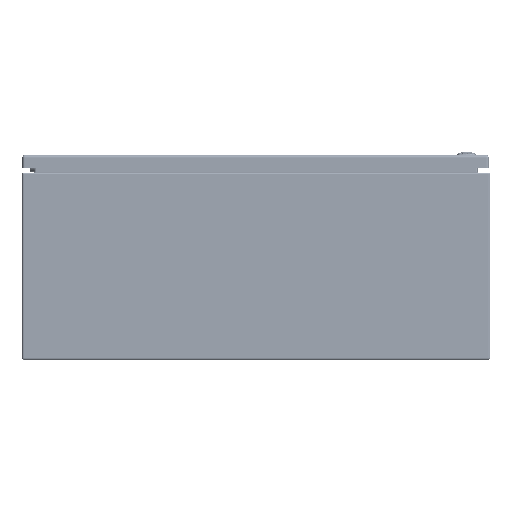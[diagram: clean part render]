
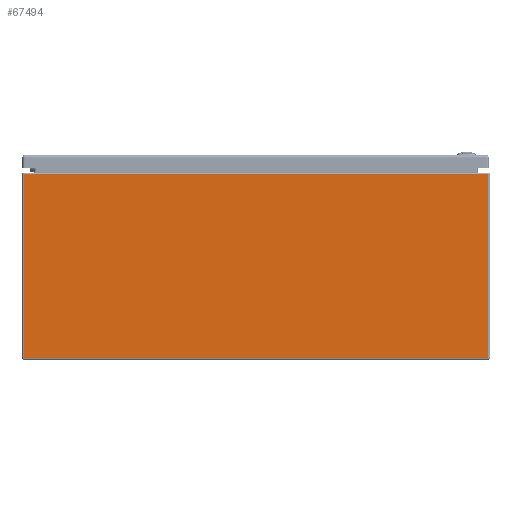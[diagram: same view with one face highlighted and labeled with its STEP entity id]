
A CAD part, front view. The second image highlights one B-rep face of the part: STEP entity #67494.
In plain terms, the highlighted planar face has unit normal (0, -1, 0).
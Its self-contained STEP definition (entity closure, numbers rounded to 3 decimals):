
#6828=LINE('',#94875,#10958);
#6831=LINE('',#94898,#10961);
#6848=LINE('',#94959,#10978);
#6857=LINE('',#94983,#10987);
#10958=VECTOR('',#78597,0.394);
#10961=VECTOR('',#78622,0.394);
#10978=VECTOR('',#78703,0.394);
#10987=VECTOR('',#78738,0.394);
#16201=FACE_OUTER_BOUND('',#20379,.T.);
#20379=EDGE_LOOP('',(#44904,#44905,#44906,#44907));
#27410=VERTEX_POINT('',#94867);
#27412=VERTEX_POINT('',#94873);
#27418=VERTEX_POINT('',#94890);
#27421=VERTEX_POINT('',#94897);
#34104=EDGE_CURVE('',#27412,#27410,#6828,.T.);
#34114=EDGE_CURVE('',#27418,#27421,#6831,.T.);
#34147=EDGE_CURVE('',#27421,#27412,#6848,.T.);
#34161=EDGE_CURVE('',#27418,#27410,#6857,.T.);
#44904=ORIENTED_EDGE('',*,*,#34104,.F.);
#44905=ORIENTED_EDGE('',*,*,#34147,.F.);
#44906=ORIENTED_EDGE('',*,*,#34114,.F.);
#44907=ORIENTED_EDGE('',*,*,#34161,.T.);
#66008=PLANE('',#72566);
#67494=ADVANCED_FACE('',(#16201),#66008,.F.);
#72566=AXIS2_PLACEMENT_3D('',#94982,#78736,#78737);
#78597=DIRECTION('',(0.,0.,-1.));
#78622=DIRECTION('',(0.,0.,1.));
#78703=DIRECTION('',(1.,0.,0.));
#78736=DIRECTION('center_axis',(0.,1.,0.));
#78737=DIRECTION('ref_axis',(1.,0.,0.));
#78738=DIRECTION('',(1.,0.,0.));
#94867=CARTESIAN_POINT('',(14.901,-15.,0.099));
#94873=CARTESIAN_POINT('',(14.901,-15.,11.901));
#94875=CARTESIAN_POINT('',(14.901,-15.,6.009));
#94890=CARTESIAN_POINT('',(-14.901,-15.,0.099));
#94897=CARTESIAN_POINT('',(-14.901,-15.,11.901));
#94898=CARTESIAN_POINT('',(-14.901,-15.,6.009));
#94959=CARTESIAN_POINT('',(10.437,-15.,11.901));
#94982=CARTESIAN_POINT('Origin',(0.,-15.,6.009));
#94983=CARTESIAN_POINT('',(0.,-15.,0.099));
